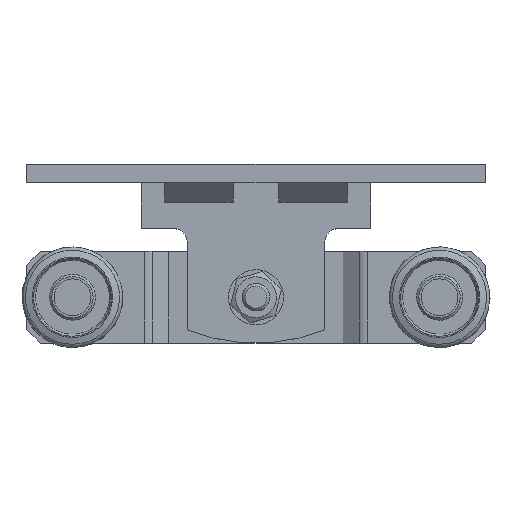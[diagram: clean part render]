
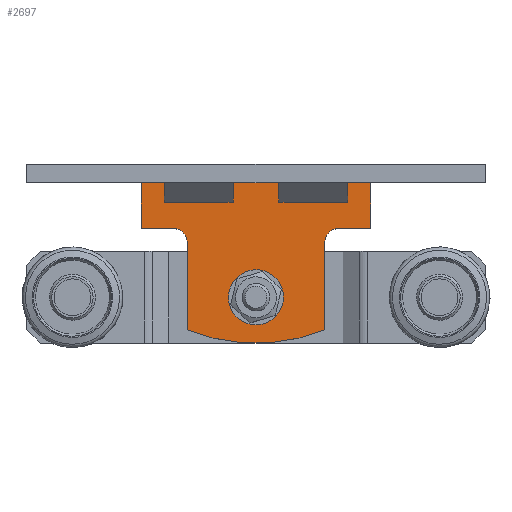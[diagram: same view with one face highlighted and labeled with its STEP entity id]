
A CAD part, top view. The second image highlights one B-rep face of the part: STEP entity #2697.
In plain terms, the highlighted planar face has unit normal (0, 0, 1).
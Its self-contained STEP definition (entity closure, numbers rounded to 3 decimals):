
#147=FACE_BOUND('',#615,.T.);
#214=CIRCLE('',#2882,3.2);
#216=CIRCLE('',#2885,40.243);
#218=CIRCLE('',#2889,3.);
#220=CIRCLE('',#2897,3.);
#430=FACE_OUTER_BOUND('',#614,.T.);
#614=EDGE_LOOP('',(#1993,#1994,#1995,#1996,#1997,#1998,#1999,#2000,#2001,
#2002));
#615=EDGE_LOOP('',(#2003));
#875=LINE('',#4126,#1091);
#879=LINE('',#4138,#1095);
#882=LINE('',#4144,#1098);
#885=LINE('',#4150,#1101);
#888=LINE('',#4156,#1104);
#891=LINE('',#4162,#1107);
#895=LINE('',#4173,#1111);
#1091=VECTOR('',#3283,19.1);
#1095=VECTOR('',#3295,7.);
#1098=VECTOR('',#3300,10.);
#1101=VECTOR('',#3305,50.);
#1104=VECTOR('',#3310,10.);
#1107=VECTOR('',#3315,7.);
#1111=VECTOR('',#3327,19.1);
#1289=VERTEX_POINT('',#4111);
#1291=VERTEX_POINT('',#4116);
#1292=VERTEX_POINT('',#4117);
#1295=VERTEX_POINT('',#4125);
#1297=VERTEX_POINT('',#4131);
#1299=VERTEX_POINT('',#4137);
#1301=VERTEX_POINT('',#4143);
#1303=VERTEX_POINT('',#4149);
#1305=VERTEX_POINT('',#4155);
#1307=VERTEX_POINT('',#4161);
#1309=VERTEX_POINT('',#4167);
#1544=EDGE_CURVE('',#1289,#1289,#214,.T.);
#1546=EDGE_CURVE('',#1291,#1292,#216,.T.);
#1550=EDGE_CURVE('',#1292,#1295,#875,.T.);
#1553=EDGE_CURVE('',#1295,#1297,#218,.T.);
#1556=EDGE_CURVE('',#1297,#1299,#879,.T.);
#1559=EDGE_CURVE('',#1299,#1301,#882,.T.);
#1562=EDGE_CURVE('',#1301,#1303,#885,.T.);
#1565=EDGE_CURVE('',#1303,#1305,#888,.T.);
#1568=EDGE_CURVE('',#1305,#1307,#891,.T.);
#1571=EDGE_CURVE('',#1307,#1309,#220,.T.);
#1574=EDGE_CURVE('',#1309,#1291,#895,.T.);
#1993=ORIENTED_EDGE('',*,*,#1546,.F.);
#1994=ORIENTED_EDGE('',*,*,#1574,.F.);
#1995=ORIENTED_EDGE('',*,*,#1571,.F.);
#1996=ORIENTED_EDGE('',*,*,#1568,.F.);
#1997=ORIENTED_EDGE('',*,*,#1565,.F.);
#1998=ORIENTED_EDGE('',*,*,#1562,.F.);
#1999=ORIENTED_EDGE('',*,*,#1559,.F.);
#2000=ORIENTED_EDGE('',*,*,#1556,.F.);
#2001=ORIENTED_EDGE('',*,*,#1553,.F.);
#2002=ORIENTED_EDGE('',*,*,#1550,.F.);
#2003=ORIENTED_EDGE('',*,*,#1544,.T.);
#2573=PLANE('',#2901);
#2697=ADVANCED_FACE('',(#430,#147),#2573,.T.);
#2882=AXIS2_PLACEMENT_3D('',#4112,#3269,#3270);
#2885=AXIS2_PLACEMENT_3D('',#4118,#3275,#3276);
#2889=AXIS2_PLACEMENT_3D('',#4132,#3288,#3289);
#2897=AXIS2_PLACEMENT_3D('',#4168,#3320,#3321);
#2901=AXIS2_PLACEMENT_3D('',#4176,#3331,#3332);
#3269=DIRECTION('center_axis',(0.,0.,-1.));
#3270=DIRECTION('ref_axis',(-1.,0.,0.));
#3275=DIRECTION('center_axis',(0.,0.,-1.));
#3276=DIRECTION('ref_axis',(0.373,0.928,0.));
#3283=DIRECTION('',(0.,-1.,0.));
#3288=DIRECTION('center_axis',(0.,0.,1.));
#3289=DIRECTION('ref_axis',(1.,0.,0.));
#3295=DIRECTION('',(1.,0.,0.));
#3300=DIRECTION('',(0.,-1.,0.));
#3305=DIRECTION('',(-1.,0.,0.));
#3310=DIRECTION('',(0.,1.,0.));
#3315=DIRECTION('',(1.,0.,0.));
#3320=DIRECTION('center_axis',(0.,0.,1.));
#3321=DIRECTION('ref_axis',(0.,1.,0.));
#3327=DIRECTION('',(0.,1.,0.));
#3331=DIRECTION('center_axis',(0.,0.,1.));
#3332=DIRECTION('ref_axis',(1.,0.,0.));
#4111=CARTESIAN_POINT('',(3.2,0.,3.));
#4112=CARTESIAN_POINT('Origin',(0.,0.,3.));
#4116=CARTESIAN_POINT('',(-15.,7.1,3.));
#4117=CARTESIAN_POINT('',(15.,7.1,3.));
#4118=CARTESIAN_POINT('Origin',(0.,-30.243,
3.));
#4125=CARTESIAN_POINT('',(15.,-12.,3.));
#4126=CARTESIAN_POINT('',(15.,-12.,3.));
#4131=CARTESIAN_POINT('',(18.,-15.,3.));
#4132=CARTESIAN_POINT('Origin',(18.,-12.,3.));
#4137=CARTESIAN_POINT('',(25.,-15.,3.));
#4138=CARTESIAN_POINT('',(25.,-15.,3.));
#4143=CARTESIAN_POINT('',(25.,-25.,3.));
#4144=CARTESIAN_POINT('',(25.,-25.,3.));
#4149=CARTESIAN_POINT('',(-25.,-25.,3.));
#4150=CARTESIAN_POINT('',(-25.,-25.,3.));
#4155=CARTESIAN_POINT('',(-25.,-15.,3.));
#4156=CARTESIAN_POINT('',(-25.,-15.,3.));
#4161=CARTESIAN_POINT('',(-18.,-15.,3.));
#4162=CARTESIAN_POINT('',(-18.,-15.,3.));
#4167=CARTESIAN_POINT('',(-15.,-12.,3.));
#4168=CARTESIAN_POINT('Origin',(-18.,-12.,3.));
#4173=CARTESIAN_POINT('',(-15.,7.1,3.));
#4176=CARTESIAN_POINT('Origin',(0.,-11.164,
3.));
